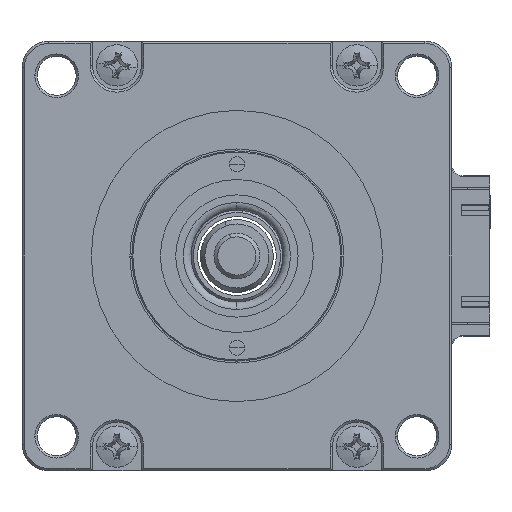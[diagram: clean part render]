
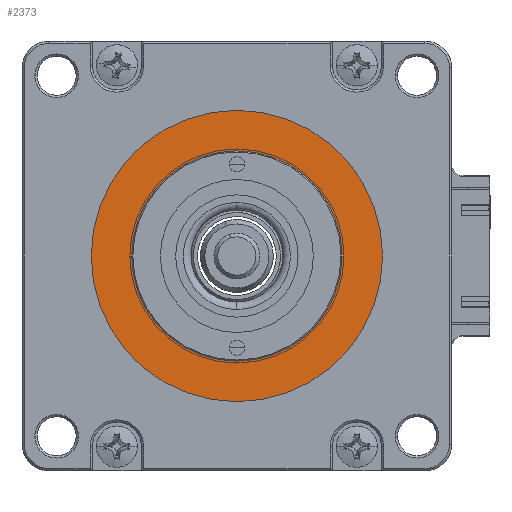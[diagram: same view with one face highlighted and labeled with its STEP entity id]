
A CAD part, left-side view. The second image highlights one B-rep face of the part: STEP entity #2373.
In plain terms, the highlighted planar face has unit normal (-1, 0, 0).
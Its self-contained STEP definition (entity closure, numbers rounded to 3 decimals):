
#79 = DIRECTION ( 'NONE',  ( 0., -1., 0. ) ) ;
#302 = EDGE_CURVE ( 'NONE', #11429, #11553, #12265, .T. ) ;
#616 = VERTEX_POINT ( 'NONE', #4855 ) ;
#832 = CARTESIAN_POINT ( 'NONE',  ( -38.623, 18.222, 48.3 ) ) ;
#855 = DIRECTION ( 'NONE',  ( -1., 0., 0. ) ) ;
#933 = AXIS2_PLACEMENT_3D ( 'NONE', #6940, #855, #7932 ) ;
#1241 = CIRCLE ( 'NONE', #933, 13.75 ) ;
#1295 = AXIS2_PLACEMENT_3D ( 'NONE', #12431, #6523, #11496 ) ;
#1775 = AXIS2_PLACEMENT_3D ( 'NONE', #8583, #2519, #9667 ) ;
#2048 = CARTESIAN_POINT ( 'NONE',  ( -38.623, 4.472, 48.3 ) ) ;
#2111 = FACE_OUTER_BOUND ( 'NONE', #10147, .T. ) ;
#2373 = ADVANCED_FACE ( 'NONE', ( #4169, #2111 ), #7043, .T. ) ;
#2519 = DIRECTION ( 'NONE',  ( -1., 0., 0. ) ) ;
#2621 = DIRECTION ( 'NONE',  ( -1., 0., 0. ) ) ;
#4132 = DIRECTION ( 'NONE',  ( 0., -1., 0. ) ) ;
#4169 = FACE_BOUND ( 'NONE', #5330, .T. ) ;
#4644 = ORIENTED_EDGE ( 'NONE', *, *, #302, .T. ) ;
#4841 = CARTESIAN_POINT ( 'NONE',  ( -38.623, -14.578, 48.3 ) ) ;
#4855 = CARTESIAN_POINT ( 'NONE',  ( -38.623, -9.278, 48.3 ) ) ;
#5330 = EDGE_LOOP ( 'NONE', ( #9478, #10183 ) ) ;
#6139 = DIRECTION ( 'NONE',  ( -1., 0., 0. ) ) ;
#6478 = AXIS2_PLACEMENT_3D ( 'NONE', #2048, #2621, #4132 ) ;
#6523 = DIRECTION ( 'NONE',  ( -1., 0., 0. ) ) ;
#6940 = CARTESIAN_POINT ( 'NONE',  ( -38.623, 4.472, 48.3 ) ) ;
#7043 = PLANE ( 'NONE',  #1295 ) ;
#7205 = VERTEX_POINT ( 'NONE', #832 ) ;
#7558 = AXIS2_PLACEMENT_3D ( 'NONE', #12318, #6139, #79 ) ;
#7932 = DIRECTION ( 'NONE',  ( 0., -1., 0. ) ) ;
#8030 = CARTESIAN_POINT ( 'NONE',  ( -38.623, 23.522, 48.3 ) ) ;
#8418 = ORIENTED_EDGE ( 'NONE', *, *, #11619, .T. ) ;
#8583 = CARTESIAN_POINT ( 'NONE',  ( -38.623, 4.472, 48.3 ) ) ;
#9478 = ORIENTED_EDGE ( 'NONE', *, *, #10425, .F. ) ;
#9571 = CIRCLE ( 'NONE', #7558, 19.05 ) ;
#9667 = DIRECTION ( 'NONE',  ( 0., -1., 0. ) ) ;
#10147 = EDGE_LOOP ( 'NONE', ( #4644, #8418 ) ) ;
#10183 = ORIENTED_EDGE ( 'NONE', *, *, #11973, .F. ) ;
#10425 = EDGE_CURVE ( 'NONE', #7205, #616, #10921, .T. ) ;
#10921 = CIRCLE ( 'NONE', #1775, 13.75 ) ;
#11429 = VERTEX_POINT ( 'NONE', #4841 ) ;
#11496 = DIRECTION ( 'NONE',  ( 0., -1., 0. ) ) ;
#11553 = VERTEX_POINT ( 'NONE', #8030 ) ;
#11619 = EDGE_CURVE ( 'NONE', #11553, #11429, #9571, .T. ) ;
#11973 = EDGE_CURVE ( 'NONE', #616, #7205, #1241, .T. ) ;
#12265 = CIRCLE ( 'NONE', #6478, 19.05 ) ;
#12318 = CARTESIAN_POINT ( 'NONE',  ( -38.623, 4.472, 48.3 ) ) ;
#12431 = CARTESIAN_POINT ( 'NONE',  ( -38.623, 29.072, 72.9 ) ) ;
